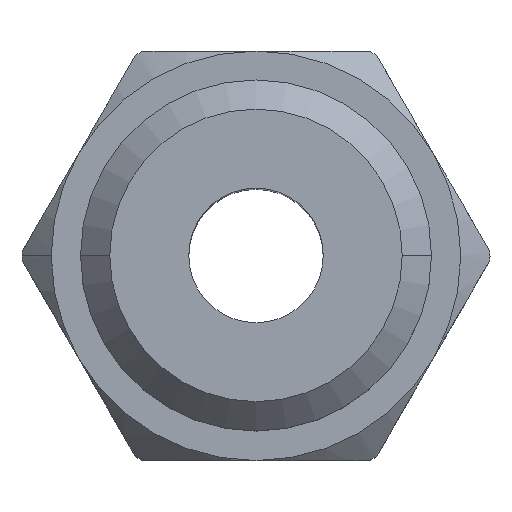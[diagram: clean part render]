
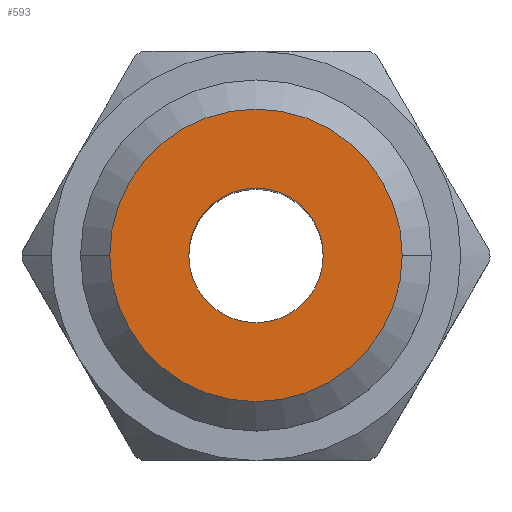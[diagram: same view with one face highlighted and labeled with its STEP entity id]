
A CAD part, top view. The second image highlights one B-rep face of the part: STEP entity #593.
In plain terms, the highlighted planar face has unit normal (0, 0, 1).
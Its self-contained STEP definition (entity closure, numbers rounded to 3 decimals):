
#14 = FACE_OUTER_BOUND ( 'NONE', #769, .T. ) ;
#68 = CIRCLE ( 'NONE', #2136, 2.5 ) ;
#73 = VERTEX_POINT ( 'NONE', #2006 ) ;
#99 = CIRCLE ( 'NONE', #2128, 1.15 ) ;
#105 = ORIENTED_EDGE ( 'NONE', *, *, #180, .T. ) ;
#129 = ORIENTED_EDGE ( 'NONE', *, *, #979, .F. ) ;
#130 = ORIENTED_EDGE ( 'NONE', *, *, #1458, .T. ) ;
#149 = DIRECTION ( 'NONE',  ( -1., 0., 0. ) ) ;
#180 = EDGE_CURVE ( 'NONE', #666, #1419, #68, .T. ) ;
#194 = ORIENTED_EDGE ( 'NONE', *, *, #989, .F. ) ;
#232 = CARTESIAN_POINT ( 'NONE',  ( -1.15, 0., 12. ) ) ;
#361 = DIRECTION ( 'NONE',  ( 0., 0., -1. ) ) ;
#372 = CIRCLE ( 'NONE', #1830, 1.15 ) ;
#419 = DIRECTION ( 'NONE',  ( 0., 0., 1. ) ) ;
#504 = AXIS2_PLACEMENT_3D ( 'NONE', #2160, #361, #149 ) ;
#593 = ADVANCED_FACE ( 'NONE', ( #14, #2111 ), #2139, .F. ) ;
#666 = VERTEX_POINT ( 'NONE', #1905 ) ;
#769 = EDGE_LOOP ( 'NONE', ( #130, #105 ) ) ;
#806 = CARTESIAN_POINT ( 'NONE',  ( 0., 0., 12. ) ) ;
#899 = EDGE_LOOP ( 'NONE', ( #129, #194 ) ) ;
#919 = DIRECTION ( 'NONE',  ( 0., 0., 1. ) ) ;
#948 = DIRECTION ( 'NONE',  ( -1., 0., 0. ) ) ;
#962 = VERTEX_POINT ( 'NONE', #232 ) ;
#979 = EDGE_CURVE ( 'NONE', #73, #962, #372, .T. ) ;
#989 = EDGE_CURVE ( 'NONE', #962, #73, #99, .T. ) ;
#1013 = DIRECTION ( 'NONE',  ( 0., 0., 1. ) ) ;
#1035 = DIRECTION ( 'NONE',  ( -1., 0., 0. ) ) ;
#1083 = CARTESIAN_POINT ( 'NONE',  ( 0., 0., 12. ) ) ;
#1419 = VERTEX_POINT ( 'NONE', #2154 ) ;
#1458 = EDGE_CURVE ( 'NONE', #1419, #666, #2234, .T. ) ;
#1830 = AXIS2_PLACEMENT_3D ( 'NONE', #1998, #2138, #2121 ) ;
#1882 = DIRECTION ( 'NONE',  ( 1., 0., 0. ) ) ;
#1905 = CARTESIAN_POINT ( 'NONE',  ( 2.5, 0., 12. ) ) ;
#1998 = CARTESIAN_POINT ( 'NONE',  ( 0., 0., 12. ) ) ;
#2006 = CARTESIAN_POINT ( 'NONE',  ( 1.15, 0., 12. ) ) ;
#2034 = AXIS2_PLACEMENT_3D ( 'NONE', #2232, #419, #1035 ) ;
#2111 = FACE_BOUND ( 'NONE', #899, .T. ) ;
#2121 = DIRECTION ( 'NONE',  ( 1., 0., 0. ) ) ;
#2128 = AXIS2_PLACEMENT_3D ( 'NONE', #1083, #1013, #1882 ) ;
#2136 = AXIS2_PLACEMENT_3D ( 'NONE', #806, #919, #948 ) ;
#2138 = DIRECTION ( 'NONE',  ( 0., 0., 1. ) ) ;
#2139 = PLANE ( 'NONE',  #504 ) ;
#2154 = CARTESIAN_POINT ( 'NONE',  ( -2.5, 0., 12. ) ) ;
#2160 = CARTESIAN_POINT ( 'NONE',  ( 0., 0., 12. ) ) ;
#2232 = CARTESIAN_POINT ( 'NONE',  ( 0., 0., 12. ) ) ;
#2234 = CIRCLE ( 'NONE', #2034, 2.5 ) ;
